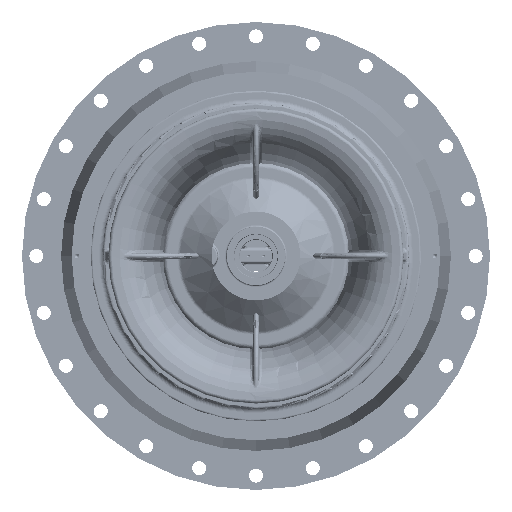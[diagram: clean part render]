
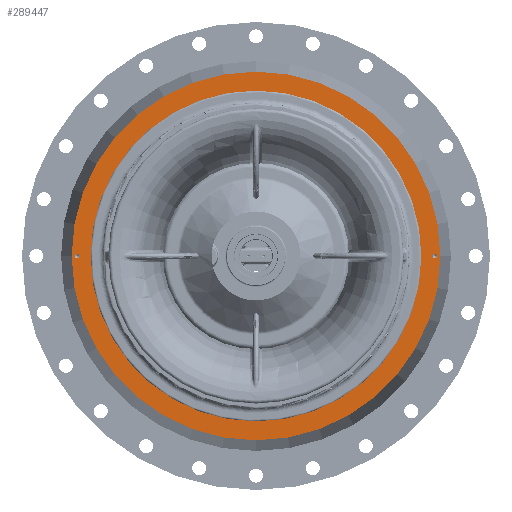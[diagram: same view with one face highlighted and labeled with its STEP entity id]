
A CAD part, front view. The second image highlights one B-rep face of the part: STEP entity #289447.
In plain terms, the highlighted planar face has unit normal (0, -1, 0).
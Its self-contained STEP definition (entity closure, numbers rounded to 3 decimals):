
#10654 = CARTESIAN_POINT ( 'NONE',  ( 0., -490.468, 340. ) ) ;
#13613 = CIRCLE ( 'NONE', #169552, 305. ) ;
#15850 = AXIS2_PLACEMENT_3D ( 'NONE', #26337, #232101, #263303 ) ;
#24715 = DIRECTION ( 'NONE',  ( 0., -1., 0. ) ) ;
#26337 = CARTESIAN_POINT ( 'NONE',  ( -330., -490.468, 0. ) ) ;
#26369 = ORIENTED_EDGE ( 'NONE', *, *, #118765, .F. ) ;
#26814 = CIRCLE ( 'NONE', #256895, 340. ) ;
#30590 = ORIENTED_EDGE ( 'NONE', *, *, #127856, .F. ) ;
#32866 = VERTEX_POINT ( 'NONE', #10654 ) ;
#37935 = EDGE_CURVE ( 'NONE', #283662, #237335, #40282, .T. ) ;
#40282 = CIRCLE ( 'NONE', #80693, 4.25 ) ;
#46654 = DIRECTION ( 'NONE',  ( 0., -1., 0. ) ) ;
#60878 = EDGE_CURVE ( 'NONE', #377564, #415055, #282839, .T. ) ;
#62957 = DIRECTION ( 'NONE',  ( 0., 0., -1. ) ) ;
#68184 = FACE_BOUND ( 'NONE', #238679, .T. ) ;
#68292 = CIRCLE ( 'NONE', #15850, 4.25 ) ;
#70326 = EDGE_CURVE ( 'NONE', #32866, #91061, #26814, .T. ) ;
#72455 = EDGE_CURVE ( 'NONE', #266989, #213870, #13613, .T. ) ;
#80693 = AXIS2_PLACEMENT_3D ( 'NONE', #252408, #46654, #149534 ) ;
#91061 = VERTEX_POINT ( 'NONE', #409643 ) ;
#93281 = CARTESIAN_POINT ( 'NONE',  ( -330., -490.468, -4.25 ) ) ;
#94495 = DIRECTION ( 'NONE',  ( 0., 0., -1. ) ) ;
#104143 = DIRECTION ( 'NONE',  ( 0., 0., -1. ) ) ;
#110032 = DIRECTION ( 'NONE',  ( 0., 0., -1. ) ) ;
#118765 = EDGE_CURVE ( 'NONE', #213870, #266989, #283977, .T. ) ;
#119818 = EDGE_LOOP ( 'NONE', ( #416853, #218506 ) ) ;
#120938 = CIRCLE ( 'NONE', #326868, 4.25 ) ;
#125915 = DIRECTION ( 'NONE',  ( 0., 0., -1. ) ) ;
#127856 = EDGE_CURVE ( 'NONE', #415055, #377564, #120938, .T. ) ;
#131221 = EDGE_LOOP ( 'NONE', ( #267565, #371762 ) ) ;
#136963 = DIRECTION ( 'NONE',  ( 0., -1., 0. ) ) ;
#149534 = DIRECTION ( 'NONE',  ( 0., 0., -1. ) ) ;
#153413 = EDGE_CURVE ( 'NONE', #91061, #32866, #211386, .T. ) ;
#161645 = DIRECTION ( 'NONE',  ( 0., -1., 0. ) ) ;
#165667 = EDGE_LOOP ( 'NONE', ( #415218, #30590 ) ) ;
#169552 = AXIS2_PLACEMENT_3D ( 'NONE', #366422, #293412, #364937 ) ;
#175551 = AXIS2_PLACEMENT_3D ( 'NONE', #270089, #373083, #62957 ) ;
#180450 = FACE_OUTER_BOUND ( 'NONE', #131221, .T. ) ;
#183119 = DIRECTION ( 'NONE',  ( 0., -1., 0. ) ) ;
#185577 = FACE_BOUND ( 'NONE', #119818, .T. ) ;
#190179 = PLANE ( 'NONE',  #279953 ) ;
#210040 = CARTESIAN_POINT ( 'NONE',  ( 330., -490.468, -4.25 ) ) ;
#211386 = CIRCLE ( 'NONE', #385245, 340. ) ;
#213870 = VERTEX_POINT ( 'NONE', #430475 ) ;
#218506 = ORIENTED_EDGE ( 'NONE', *, *, #368244, .F. ) ;
#232101 = DIRECTION ( 'NONE',  ( 0., -1., 0. ) ) ;
#233418 = DIRECTION ( 'NONE',  ( 0., 0., -1. ) ) ;
#234658 = CARTESIAN_POINT ( 'NONE',  ( 330., -490.468, 0. ) ) ;
#237335 = VERTEX_POINT ( 'NONE', #254929 ) ;
#238679 = EDGE_LOOP ( 'NONE', ( #299662, #26369 ) ) ;
#252408 = CARTESIAN_POINT ( 'NONE',  ( -330., -490.468, 0. ) ) ;
#254929 = CARTESIAN_POINT ( 'NONE',  ( -330., -490.468, 4.25 ) ) ;
#256895 = AXIS2_PLACEMENT_3D ( 'NONE', #415818, #183119, #110032 ) ;
#263303 = DIRECTION ( 'NONE',  ( 0., 0., -1. ) ) ;
#266989 = VERTEX_POINT ( 'NONE', #397693 ) ;
#267565 = ORIENTED_EDGE ( 'NONE', *, *, #153413, .T. ) ;
#270089 = CARTESIAN_POINT ( 'NONE',  ( 0., -490.468, 0. ) ) ;
#270695 = AXIS2_PLACEMENT_3D ( 'NONE', #336844, #136963, #104143 ) ;
#276149 = FACE_BOUND ( 'NONE', #165667, .T. ) ;
#279953 = AXIS2_PLACEMENT_3D ( 'NONE', #427329, #330227, #125915 ) ;
#282839 = CIRCLE ( 'NONE', #270695, 4.25 ) ;
#283662 = VERTEX_POINT ( 'NONE', #93281 ) ;
#283977 = CIRCLE ( 'NONE', #175551, 305. ) ;
#289447 = ADVANCED_FACE ( 'NONE', ( #276149, #185577, #180450, #68184 ), #190179, .T. ) ;
#290844 = CARTESIAN_POINT ( 'NONE',  ( 330., -490.468, 4.25 ) ) ;
#293412 = DIRECTION ( 'NONE',  ( 0., -1., 0. ) ) ;
#299662 = ORIENTED_EDGE ( 'NONE', *, *, #72455, .F. ) ;
#326868 = AXIS2_PLACEMENT_3D ( 'NONE', #234658, #161645, #94495 ) ;
#330227 = DIRECTION ( 'NONE',  ( 0., -1., 0. ) ) ;
#336215 = CARTESIAN_POINT ( 'NONE',  ( 0., -490.468, 0. ) ) ;
#336844 = CARTESIAN_POINT ( 'NONE',  ( 330., -490.468, 0. ) ) ;
#364937 = DIRECTION ( 'NONE',  ( 0., 0., -1. ) ) ;
#366422 = CARTESIAN_POINT ( 'NONE',  ( 0., -490.468, 0. ) ) ;
#368244 = EDGE_CURVE ( 'NONE', #237335, #283662, #68292, .T. ) ;
#371762 = ORIENTED_EDGE ( 'NONE', *, *, #70326, .T. ) ;
#373083 = DIRECTION ( 'NONE',  ( 0., -1., 0. ) ) ;
#377564 = VERTEX_POINT ( 'NONE', #210040 ) ;
#385245 = AXIS2_PLACEMENT_3D ( 'NONE', #336215, #24715, #233418 ) ;
#397693 = CARTESIAN_POINT ( 'NONE',  ( 0., -490.468, -305. ) ) ;
#409643 = CARTESIAN_POINT ( 'NONE',  ( 0., -490.468, -340. ) ) ;
#415055 = VERTEX_POINT ( 'NONE', #290844 ) ;
#415218 = ORIENTED_EDGE ( 'NONE', *, *, #60878, .F. ) ;
#415818 = CARTESIAN_POINT ( 'NONE',  ( 0., -490.468, 0. ) ) ;
#416853 = ORIENTED_EDGE ( 'NONE', *, *, #37935, .F. ) ;
#427329 = CARTESIAN_POINT ( 'NONE',  ( 305., -490.468, 0. ) ) ;
#430475 = CARTESIAN_POINT ( 'NONE',  ( 0., -490.468, 305. ) ) ;
